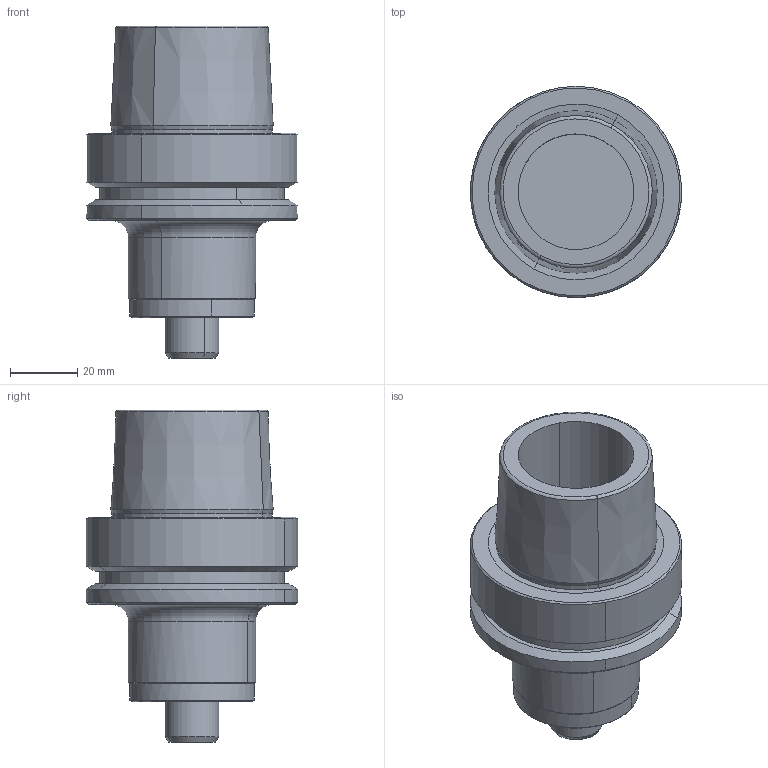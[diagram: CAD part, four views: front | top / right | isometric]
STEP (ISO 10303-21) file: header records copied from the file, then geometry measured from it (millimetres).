
FILE_DESCRIPTION(('CATIA V5 STEP','CAx-IF Rec.Pracs.--- Model Styling and Organization---1.2---2011-12-15'),'2;1');
FILE_NAME('C:\eit\appserv\eitdev\tmp\eit\transmagicconvert\13104031\4502239-L-M.stp','2017-04-13T07:40:35+00:00',('none'),('none'),'CATIA Version 5 Release 21 SP 5 (IN-10)','CATIA V5 STEP AP214','none');
FILE_SCHEMA(('AUTOMOTIVE_DESIGN { 1 0 10303 214 1 1 1 1 }'));
Length unit declared in the file: millimetre
Products named in the file (1): HSK E 63 SEM 16X 50
Bounding box: 62.98 x 63 x 99 mm (x, y, z)
Volume: 127912.5 mm3; surface area: 25978.2 mm2
Topology: 1 solids, 1 shells, 78 faces, 185 edges, 116 vertices
Faces by surface type: cone 26, cylinder 22, revolution 12, plane 10, torus 8
Entity records: 2119 total; most frequent: CARTESIAN_POINT 433, ORIENTED_EDGE 366, DIRECTION 267, EDGE_CURVE 183, AXIS2_PLACEMENT_3D 165, CIRCLE 123, VERTEX_POINT 116, EDGE_LOOP 87
